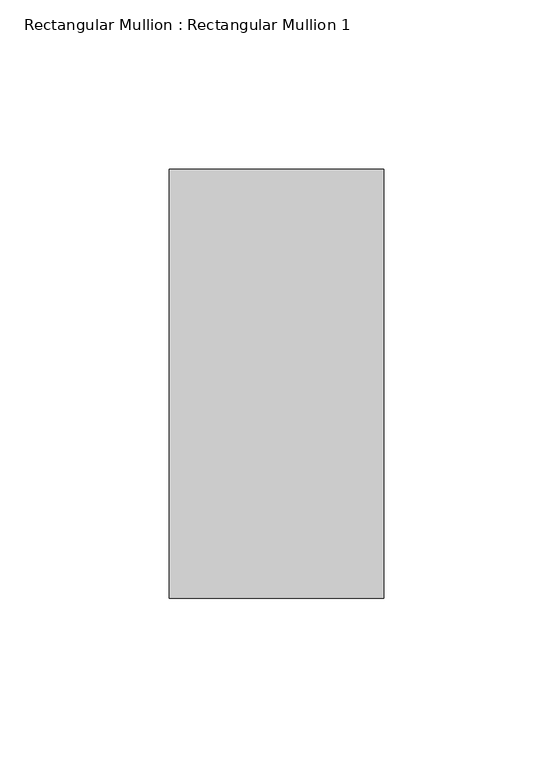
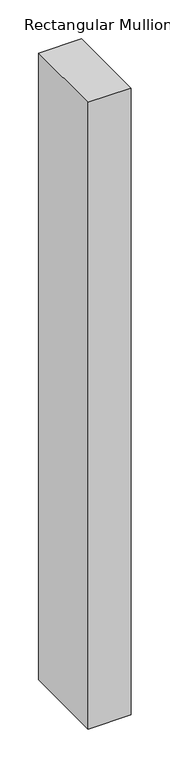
"""IFC4 building model written with IfcOpenShell, lengths in millimetres: member geometry, Rectangular Mullion : Rectangular Mullion 1."""

from ifc_helpers import new_model, si_unit, frame, origin, place, context, project, spatial, polyline, outline, extrude, source, transform, mapped, element, save


def rectangular_mullion_rectangular_mullion_1_4efc3ea5(model_context):
    return source(origin(), model_context, "Body", "SweptSolid", [
        extrude(outline(polyline([(0.0, 63.5), (0.0, -63.5), (-63.5, -63.5), (-63.5, 63.5), (0.0, 63.5)])), frame((0.0, 0.0, -981.3343805), z_axis=(0.0, 0.0, 1.0), x_axis=(1.0, 0.0, 0.0)), (0.0, 0.0, 1.0), 981.3343805),
    ])


if __name__ == "__main__":
    model = new_model("IFC4")
    model_context = context("Model", 3, world=origin())
    ifc_project = project(units=[si_unit("LENGTHUNIT", "METRE", prefix="MILLI")], contexts=[model_context])
    site = spatial("IfcSite", under=ifc_project)
    building = spatial("IfcBuilding", under=site)
    placement = place(None, origin())
    rectangular_mullion_rectangular_mullion_1_shape = rectangular_mullion_rectangular_mullion_1_4efc3ea5(model_context)
    element("IfcMember", 1, ObjectType="Rectangular Mullion : Rectangular Mullion 1", at=placement, inside=building, context=model_context, shape_type="MappedRepresentation", body=[
        mapped(rectangular_mullion_rectangular_mullion_1_shape, transform((0.0, 0.0, 0.0), x_axis=(1.0, 0.0, 0.0), y_axis=(0.0, 1.0, 0.0), z_axis=(0.0, 0.0, 1.0))),
    ])
    save(model, "model.ifc")
